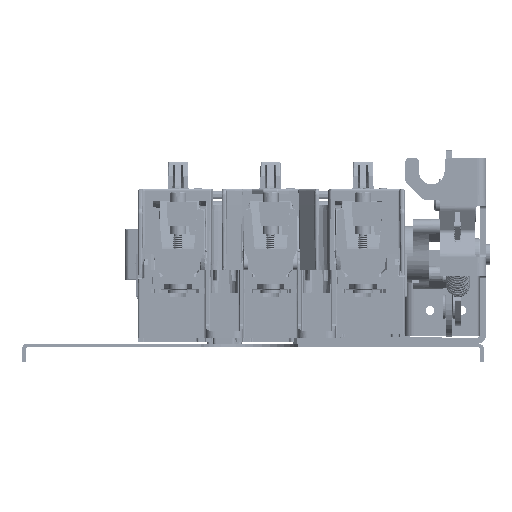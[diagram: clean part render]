
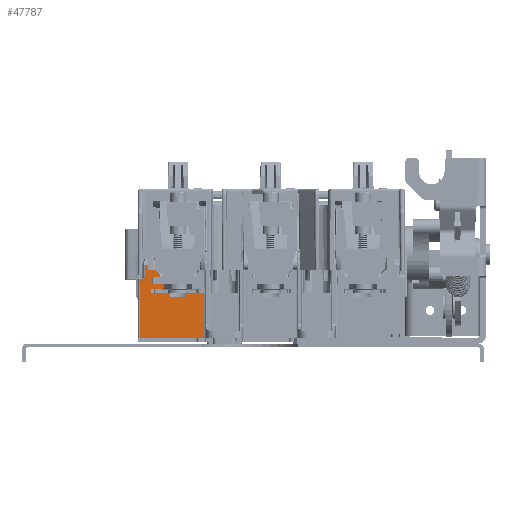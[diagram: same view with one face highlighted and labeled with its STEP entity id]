
A CAD part, front view. The second image highlights one B-rep face of the part: STEP entity #47787.
In plain terms, the highlighted planar face has unit normal (0, -1, 0) as drawn and (0, 0, 1) by its records, which use the part's own axes.
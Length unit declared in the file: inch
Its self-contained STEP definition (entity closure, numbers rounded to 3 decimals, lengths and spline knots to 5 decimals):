
#12354=CARTESIAN_POINT('',(-2.5177,-0.48735,
1.94));
#12361=DIRECTION('',(-1.,-0.009,0.));
#12362=VECTOR('',#12361,0.0473);
#12363=CARTESIAN_POINT('',(-2.5177,-0.48735,
1.94));
#12364=LINE('',#12363,#12362);
#12608=DIRECTION('',(0.,-1.,0.));
#12609=VECTOR('',#12608,0.2419);
#12610=CARTESIAN_POINT('',(-2.466,-0.215,1.94));
#12611=LINE('',#12610,#12609);
#12612=DIRECTION('',(-1.,0.,0.));
#12613=VECTOR('',#12612,0.06563);
#12614=CARTESIAN_POINT('',(-2.40037,-0.215,1.94));
#12615=LINE('',#12614,#12613);
#12616=DIRECTION('',(1.,0.,0.));
#12617=VECTOR('',#12616,0.15708);
#12618=CARTESIAN_POINT('',(-2.39863,-0.315,1.94));
#12619=LINE('',#12618,#12617);
#12620=DIRECTION('',(-0.707,0.707,0.));
#12621=VECTOR('',#12620,0.10607);
#12622=CARTESIAN_POINT('',(-2.16654,-0.39,1.94));
#12623=LINE('',#12622,#12621);
#12624=DIRECTION('',(0.,-1.,0.));
#12625=VECTOR('',#12624,0.14408);
#12626=CARTESIAN_POINT('',(-2.31604,-0.43746,1.94));
#12627=LINE('',#12626,#12625);
#12628=DIRECTION('',(0.,1.,0.));
#12629=VECTOR('',#12628,0.09092);
#12630=CARTESIAN_POINT('',(-2.08404,-0.67246,1.94));
#12631=LINE('',#12630,#12629);
#12632=DIRECTION('',(0.,1.,0.));
#12633=VECTOR('',#12632,0.08408);
#12634=CARTESIAN_POINT('',(-2.34054,-0.75654,1.94));
#12635=LINE('',#12634,#12633);
#12636=DIRECTION('',(-0.017,1.,0.));
#12637=VECTOR('',#12636,0.08001);
#12638=CARTESIAN_POINT('',(-1.96792,-0.83654,1.94));
#12639=LINE('',#12638,#12637);
#12640=DIRECTION('',(1.,0.,0.));
#12641=VECTOR('',#12640,0.31184);
#12642=CARTESIAN_POINT('',(-1.96792,-0.83654,1.94));
#12643=LINE('',#12642,#12641);
#12644=DIRECTION('',(0.017,1.,0.));
#12645=VECTOR('',#12644,0.08001);
#12646=CARTESIAN_POINT('',(-1.65608,-0.83654,1.94));
#12647=LINE('',#12646,#12645);
#12648=DIRECTION('',(0.,1.,0.));
#12649=VECTOR('',#12648,0.87346);
#12650=CARTESIAN_POINT('',(-1.30694,-1.63,1.94));
#12651=LINE('',#12650,#12649);
#12652=DIRECTION('',(-1.,0.,0.));
#12653=VECTOR('',#12652,1.25806);
#12654=CARTESIAN_POINT('',(-1.30694,-1.63,1.94));
#12655=LINE('',#12654,#12653);
#12656=DIRECTION('',(0.,-1.,0.));
#12657=VECTOR('',#12656,1.14223);
#12658=CARTESIAN_POINT('',(-2.565,-0.48777,1.94));
#12659=LINE('',#12658,#12657);
#15264=DIRECTION('',(1.,0.,0.));
#15265=VECTOR('',#15264,0.1495);
#15266=CARTESIAN_POINT('',(-2.31604,-0.43746,1.94));
#15267=LINE('',#15266,#15265);
#15352=DIRECTION('',(-1.,0.,0.));
#15353=VECTOR('',#15352,0.232);
#15354=CARTESIAN_POINT('',(-2.08404,-0.58154,1.94));
#15355=LINE('',#15354,#15353);
#15368=DIRECTION('',(1.,0.,0.));
#15369=VECTOR('',#15368,0.2565);
#15370=CARTESIAN_POINT('',(-2.34054,-0.67246,1.94));
#15371=LINE('',#15370,#15369);
#15376=DIRECTION('',(-1.,0.,0.));
#15377=VECTOR('',#15376,0.37122);
#15378=CARTESIAN_POINT('',(-1.96932,-0.75654,1.94));
#15379=LINE('',#15378,#15377);
#15396=DIRECTION('',(-1.,0.,0.));
#15397=VECTOR('',#15396,0.34774);
#15398=CARTESIAN_POINT('',(-1.30694,-0.75654,1.94));
#15399=LINE('',#15398,#15397);
#15830=CARTESIAN_POINT('',(-1.30694,-0.75654,1.94));
#30281=DIRECTION('',(0.,-1.,0.));
#30282=VECTOR('',#30281,0.04746);
#30283=CARTESIAN_POINT('',(-2.16654,-0.39,1.94));
#30284=LINE('',#30283,#30282);
#34529=DIRECTION('',(0.017,-1.,0.));
#34530=VECTOR('',#34529,0.10002);
#34531=CARTESIAN_POINT('',(-2.40037,-0.215,1.94));
#34532=LINE('',#34531,#34530);
#34547=CARTESIAN_POINT('',(-2.466,-0.4569,1.94));
#34574=CARTESIAN_POINT('',(-2.466,-0.4569,1.94));
#34575=CARTESIAN_POINT('',(-2.47027,-0.46125,
1.94));
#34576=CARTESIAN_POINT('',(-2.47846,-0.46954,
1.94));
#34577=CARTESIAN_POINT('',(-2.49127,-0.47957,
1.94));
#34578=CARTESIAN_POINT('',(-2.50481,-0.48593,
1.94));
#34579=CARTESIAN_POINT('',(-2.51342,-0.48732,
1.94));
#34580=CARTESIAN_POINT('',(-2.5177,-0.48735,
1.94));
#35997=CARTESIAN_POINT('',(-2.565,-0.48777,1.94));
#35998=CARTESIAN_POINT('',(-2.565,-1.63,1.94));
#35999=VERTEX_POINT('',#35997);
#36000=VERTEX_POINT('',#35998);
#36504=CARTESIAN_POINT('',(-2.31604,-0.43746,1.94));
#36505=CARTESIAN_POINT('',(-2.31604,-0.58154,1.94));
#36506=VERTEX_POINT('',#36504);
#36507=VERTEX_POINT('',#36505);
#36512=CARTESIAN_POINT('',(-2.08404,-0.67246,1.94));
#36513=CARTESIAN_POINT('',(-2.08404,-0.58154,1.94));
#36514=VERTEX_POINT('',#36512);
#36515=VERTEX_POINT('',#36513);
#37220=CARTESIAN_POINT('',(-2.16654,-0.43746,1.94));
#37221=VERTEX_POINT('',#37220);
#37322=CARTESIAN_POINT('',(-1.96932,-0.75654,1.94));
#37323=VERTEX_POINT('',#37322);
#37324=CARTESIAN_POINT('',(-1.65468,-0.75654,1.94));
#37325=VERTEX_POINT('',#37324);
#37448=CARTESIAN_POINT('',(-2.16654,-0.39,1.94));
#37449=VERTEX_POINT('',#37448);
#37450=CARTESIAN_POINT('',(-2.24155,-0.315,1.94));
#37451=VERTEX_POINT('',#37450);
#37534=CARTESIAN_POINT('',(-1.96792,-0.83654,1.94));
#37535=VERTEX_POINT('',#37534);
#37536=CARTESIAN_POINT('',(-1.65608,-0.83654,1.94));
#37537=VERTEX_POINT('',#37536);
#40724=CARTESIAN_POINT('',(-2.39863,-0.315,1.94));
#40725=VERTEX_POINT('',#40724);
#41358=VERTEX_POINT('',#15830);
#41360=CARTESIAN_POINT('',(-1.30694,-1.63,1.94));
#41362=VERTEX_POINT('',#41360);
#41368=CARTESIAN_POINT('',(-2.40037,-0.215,1.94));
#41369=CARTESIAN_POINT('',(-2.466,-0.215,1.94));
#41370=VERTEX_POINT('',#41368);
#41371=VERTEX_POINT('',#41369);
#41378=VERTEX_POINT('',#12354);
#41379=VERTEX_POINT('',#34547);
#42040=CARTESIAN_POINT('',(-2.34054,-0.67246,1.94));
#42041=VERTEX_POINT('',#42040);
#42042=CARTESIAN_POINT('',(-2.34054,-0.75654,1.94));
#42043=VERTEX_POINT('',#42042);
#47738=CARTESIAN_POINT('',(-2.595,0.,1.94));
#47739=DIRECTION('',(0.,0.,1.));
#47740=DIRECTION('',(1.,0.,0.));
#47741=AXIS2_PLACEMENT_3D('',#47738,#47739,#47740);
#47742=PLANE('',#47741);
#47743=ORIENTED_EDGE('',*,*,#47392,.F.);
#47745=ORIENTED_EDGE('',*,*,#47744,.F.);
#47747=ORIENTED_EDGE('',*,*,#47746,.F.);
#47749=ORIENTED_EDGE('',*,*,#47748,.F.);
#47751=ORIENTED_EDGE('',*,*,#47750,.T.);
#47753=ORIENTED_EDGE('',*,*,#47752,.T.);
#47755=ORIENTED_EDGE('',*,*,#47754,.F.);
#47757=ORIENTED_EDGE('',*,*,#47756,.T.);
#47759=ORIENTED_EDGE('',*,*,#47758,.F.);
#47761=ORIENTED_EDGE('',*,*,#47760,.T.);
#47763=ORIENTED_EDGE('',*,*,#47762,.F.);
#47765=ORIENTED_EDGE('',*,*,#47764,.F.);
#47767=ORIENTED_EDGE('',*,*,#47766,.F.);
#47769=ORIENTED_EDGE('',*,*,#47768,.F.);
#47771=ORIENTED_EDGE('',*,*,#47770,.F.);
#47773=ORIENTED_EDGE('',*,*,#47772,.F.);
#47775=ORIENTED_EDGE('',*,*,#47774,.T.);
#47777=ORIENTED_EDGE('',*,*,#47776,.T.);
#47779=ORIENTED_EDGE('',*,*,#47778,.F.);
#47781=ORIENTED_EDGE('',*,*,#47780,.F.);
#47782=ORIENTED_EDGE('',*,*,#42487,.T.);
#47784=ORIENTED_EDGE('',*,*,#47783,.F.);
#47785=EDGE_LOOP('',(#47743,#47745,#47747,#47749,#47751,#47753,#47755,#47757,
#47759,#47761,#47763,#47765,#47767,#47769,#47771,#47773,#47775,#47777,#47779,
#47781,#47782,#47784));
#47786=FACE_OUTER_BOUND('',#47785,.F.);
#47787=ADVANCED_FACE('',(#47786),#47742,.T.);
#34581=B_SPLINE_CURVE_WITH_KNOTS('',3,(#34574,#34575,#34576,#34577,#34578,
#34579,#34580),.UNSPECIFIED.,.F.,.F.,(4,1,1,1,4),(0.,0.25,0.5,0.75,
1.),.UNSPECIFIED.);
#42487=EDGE_CURVE('',#41362,#36000,#12655,.T.);
#47392=EDGE_CURVE('',#41378,#35999,#12364,.T.);
#47744=EDGE_CURVE('',#41379,#41378,#34581,.T.);
#47746=EDGE_CURVE('',#41371,#41379,#12611,.T.);
#47748=EDGE_CURVE('',#41370,#41371,#12615,.T.);
#47750=EDGE_CURVE('',#41370,#40725,#34532,.T.);
#47752=EDGE_CURVE('',#40725,#37451,#12619,.T.);
#47754=EDGE_CURVE('',#37449,#37451,#12623,.T.);
#47756=EDGE_CURVE('',#37449,#37221,#30284,.T.);
#47758=EDGE_CURVE('',#36506,#37221,#15267,.T.);
#47760=EDGE_CURVE('',#36506,#36507,#12627,.T.);
#47762=EDGE_CURVE('',#36515,#36507,#15355,.T.);
#47764=EDGE_CURVE('',#36514,#36515,#12631,.T.);
#47766=EDGE_CURVE('',#42041,#36514,#15371,.T.);
#47768=EDGE_CURVE('',#42043,#42041,#12635,.T.);
#47770=EDGE_CURVE('',#37323,#42043,#15379,.T.);
#47772=EDGE_CURVE('',#37535,#37323,#12639,.T.);
#47774=EDGE_CURVE('',#37535,#37537,#12643,.T.);
#47776=EDGE_CURVE('',#37537,#37325,#12647,.T.);
#47778=EDGE_CURVE('',#41358,#37325,#15399,.T.);
#47780=EDGE_CURVE('',#41362,#41358,#12651,.T.);
#47783=EDGE_CURVE('',#35999,#36000,#12659,.T.);
